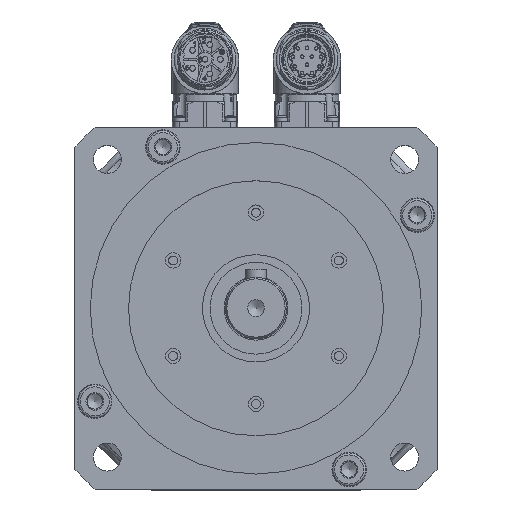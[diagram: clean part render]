
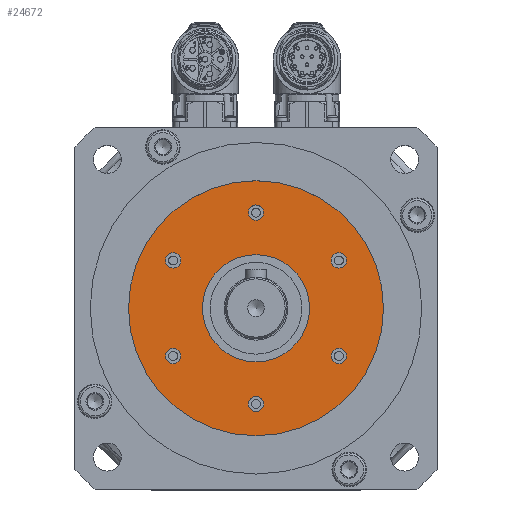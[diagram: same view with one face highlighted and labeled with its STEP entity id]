
A CAD part, top view. The second image highlights one B-rep face of the part: STEP entity #24672.
In plain terms, the highlighted planar face has unit normal (0, 0, 1).
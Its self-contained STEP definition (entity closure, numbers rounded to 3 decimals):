
#5925=FACE_BOUND('',#7997,.T.);
#5926=FACE_BOUND('',#7998,.T.);
#5927=FACE_BOUND('',#7999,.T.);
#5928=FACE_BOUND('',#8000,.T.);
#5929=FACE_BOUND('',#8001,.T.);
#5930=FACE_BOUND('',#8002,.T.);
#5931=FACE_BOUND('',#8003,.T.);
#5932=FACE_BOUND('',#8004,.T.);
#7997=EDGE_LOOP('',(#17203));
#7998=EDGE_LOOP('',(#17204));
#7999=EDGE_LOOP('',(#17205));
#8000=EDGE_LOOP('',(#17206));
#8001=EDGE_LOOP('',(#17207));
#8002=EDGE_LOOP('',(#17208));
#8003=EDGE_LOOP('',(#17209));
#8004=EDGE_LOOP('',(#17210));
#9961=CIRCLE('',#26183,3.);
#9965=CIRCLE('',#26190,3.);
#9969=CIRCLE('',#26197,3.);
#9973=CIRCLE('',#26204,3.);
#9977=CIRCLE('',#26211,3.);
#9981=CIRCLE('',#26218,3.);
#9986=CIRCLE('',#26226,21.);
#10011=CIRCLE('',#26269,50.);
#11139=VERTEX_POINT('',#35378);
#11143=VERTEX_POINT('',#35389);
#11147=VERTEX_POINT('',#35400);
#11151=VERTEX_POINT('',#35411);
#11155=VERTEX_POINT('',#35422);
#11159=VERTEX_POINT('',#35433);
#11164=VERTEX_POINT('',#35446);
#11189=VERTEX_POINT('',#35514);
#13642=EDGE_CURVE('',#11139,#11139,#9961,.T.);
#13646=EDGE_CURVE('',#11143,#11143,#9965,.T.);
#13650=EDGE_CURVE('',#11147,#11147,#9969,.T.);
#13654=EDGE_CURVE('',#11151,#11151,#9973,.T.);
#13658=EDGE_CURVE('',#11155,#11155,#9977,.T.);
#13662=EDGE_CURVE('',#11159,#11159,#9981,.T.);
#13667=EDGE_CURVE('',#11164,#11164,#9986,.T.);
#13692=EDGE_CURVE('',#11189,#11189,#10011,.T.);
#17203=ORIENTED_EDGE('',*,*,#13642,.T.);
#17204=ORIENTED_EDGE('',*,*,#13646,.T.);
#17205=ORIENTED_EDGE('',*,*,#13650,.T.);
#17206=ORIENTED_EDGE('',*,*,#13654,.T.);
#17207=ORIENTED_EDGE('',*,*,#13658,.T.);
#17208=ORIENTED_EDGE('',*,*,#13662,.T.);
#17209=ORIENTED_EDGE('',*,*,#13667,.T.);
#17210=ORIENTED_EDGE('',*,*,#13692,.F.);
#24118=PLANE('',#26268);
#24672=ADVANCED_FACE('',(#5925,#5926,#5927,#5928,#5929,#5930,#5931,#5932),
#24118,.T.);
#26183=AXIS2_PLACEMENT_3D('',#35379,#28842,#28843);
#26190=AXIS2_PLACEMENT_3D('',#35390,#28856,#28857);
#26197=AXIS2_PLACEMENT_3D('',#35401,#28870,#28871);
#26204=AXIS2_PLACEMENT_3D('',#35412,#28884,#28885);
#26211=AXIS2_PLACEMENT_3D('',#35423,#28898,#28899);
#26218=AXIS2_PLACEMENT_3D('',#35434,#28912,#28913);
#26226=AXIS2_PLACEMENT_3D('',#35447,#28928,#28929);
#26268=AXIS2_PLACEMENT_3D('',#35513,#29012,#29013);
#26269=AXIS2_PLACEMENT_3D('',#35515,#29014,#29015);
#28842=DIRECTION('center_axis',(0.,0.,-1.));
#28843=DIRECTION('ref_axis',(0.5,-0.866,0.));
#28856=DIRECTION('center_axis',(0.,0.,-1.));
#28857=DIRECTION('ref_axis',(-0.5,-0.866,0.));
#28870=DIRECTION('center_axis',(0.,0.,-1.));
#28871=DIRECTION('ref_axis',(-1.,0.,0.));
#28884=DIRECTION('center_axis',(0.,0.,-1.));
#28885=DIRECTION('ref_axis',(-0.5,0.866,0.));
#28898=DIRECTION('center_axis',(0.,0.,-1.));
#28899=DIRECTION('ref_axis',(0.5,0.866,0.));
#28912=DIRECTION('center_axis',(0.,0.,-1.));
#28913=DIRECTION('ref_axis',(1.,0.,0.));
#28928=DIRECTION('center_axis',(0.,0.,-1.));
#28929=DIRECTION('ref_axis',(-1.,0.,0.));
#29012=DIRECTION('center_axis',(0.,0.,1.));
#29013=DIRECTION('ref_axis',(1.,0.,0.));
#29014=DIRECTION('center_axis',(0.,0.,-1.));
#29015=DIRECTION('ref_axis',(-1.,0.,0.));
#35378=CARTESIAN_POINT('',(33.976,16.152,-0.5));
#35379=CARTESIAN_POINT('Origin',(32.476,18.75,-0.5));
#35389=CARTESIAN_POINT('',(30.976,-21.348,-0.5));
#35390=CARTESIAN_POINT('Origin',(32.476,-18.75,-0.5));
#35400=CARTESIAN_POINT('',(-3.,-37.5,-0.5));
#35401=CARTESIAN_POINT('Origin',(0.,-37.5,-0.5));
#35411=CARTESIAN_POINT('',(-33.976,-16.152,-0.5));
#35412=CARTESIAN_POINT('Origin',(-32.476,-18.75,-0.5));
#35422=CARTESIAN_POINT('',(-30.976,21.348,-0.5));
#35423=CARTESIAN_POINT('Origin',(-32.476,18.75,-0.5));
#35433=CARTESIAN_POINT('',(3.,37.5,-0.5));
#35434=CARTESIAN_POINT('Origin',(0.,37.5,-0.5));
#35446=CARTESIAN_POINT('',(21.,0.,-0.5));
#35447=CARTESIAN_POINT('Origin',(0.,0.,-0.5));
#35513=CARTESIAN_POINT('Origin',(0.,0.,
-0.5));
#35514=CARTESIAN_POINT('',(50.,0.,-0.5));
#35515=CARTESIAN_POINT('Origin',(0.,0.,-0.5));
